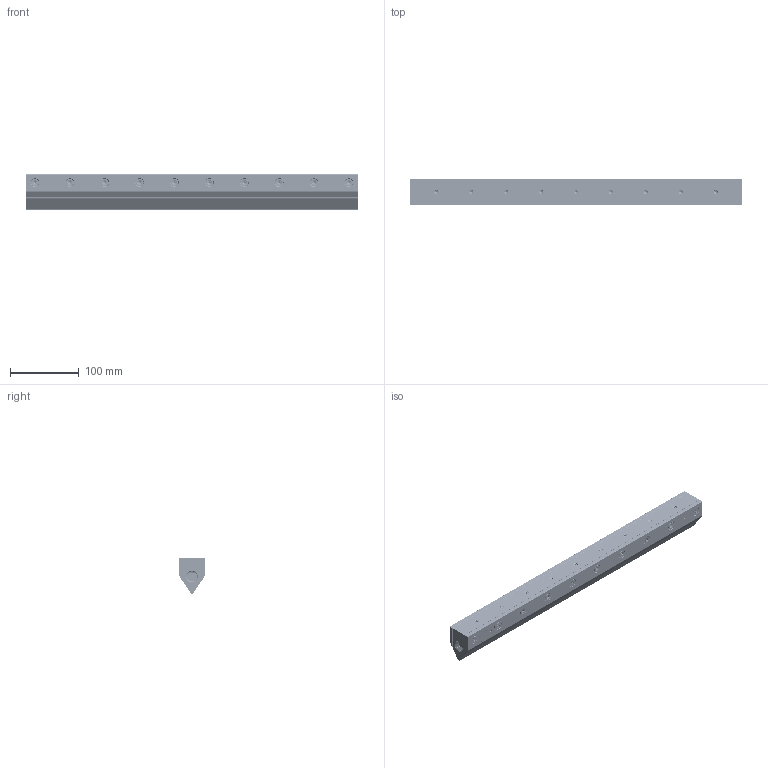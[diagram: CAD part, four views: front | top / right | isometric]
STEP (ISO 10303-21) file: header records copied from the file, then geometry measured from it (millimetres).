
FILE_DESCRIPTION (( 'STEP AP214' ), '1' );
FILE_NAME ('STEP - RA-2_450_DF.STEP', '2023-07-12T15:14:07', ( '' ), ( '' ), 'SwSTEP 2.0', 'SolidWorks 2021', '' );
FILE_SCHEMA (( 'AUTOMOTIVE_DESIGN' ));
Length unit declared in the file: millimetre
Products named in the file (1): STEP - RA-2_450_DF
Bounding box: 482 x 37.26 x 51.3 mm (x, y, z)
Volume: 693388.3 mm3; surface area: 103769.9 mm2
Topology: 21 solids, 21 shells, 2686 faces, 7266 edges, 4806 vertices
Faces by surface type: plane 1301, cylinder 711, bspline 490, cone 144, torus 40
Full cylindrical faces by diameter (mm): 5 x118, 6.5 x20, 11.3 x20
Entity records: 207293 total; most frequent: CARTESIAN_POINT 120236, ORIENTED_EDGE 13212, DIRECTION 10201, EDGE_CURVE 6606, VERTEX_POINT 4462, LINE 3751, VECTOR 3751, AXIS2_PLACEMENT_3D 3225
